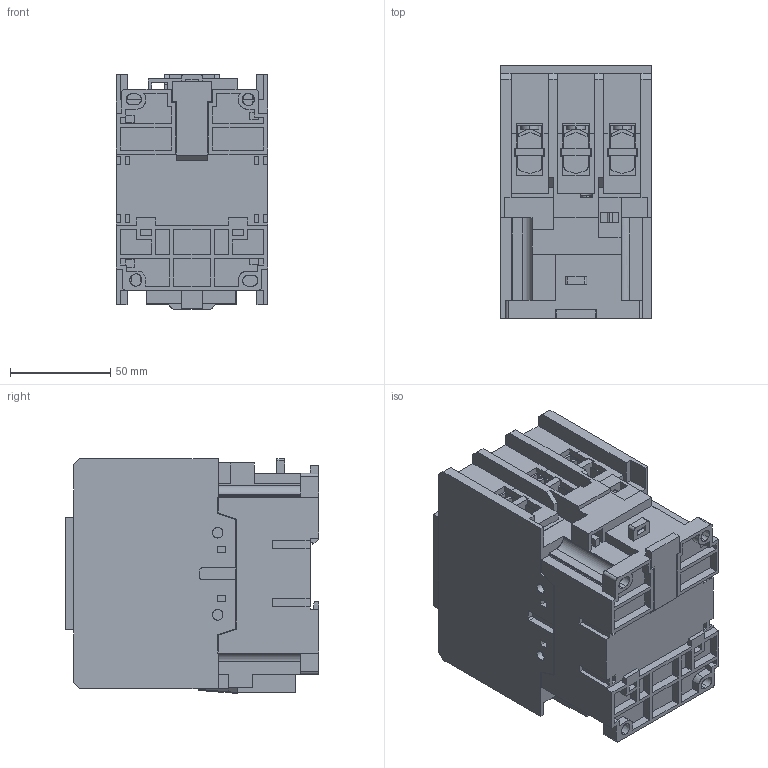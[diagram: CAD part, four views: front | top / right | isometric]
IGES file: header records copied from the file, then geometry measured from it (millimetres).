
Start section: SolidWorks IGES file using analytic representation for surfaces
Global section: file name: \\Brjgs100\dfsweg\GROUPS\BR_SC_JGS_WA_TECNICO\ENG\Usuarios\Rodrigob\conversão\contatores\Produto\CWL110\CWL110.IGS; native system: SolidWorks 2018; preprocessor: SolidWorks 2018; author: rodrigob; date: 190625.081306; units: millimetre
Bounding box: 75.35 x 126 x 117 mm (x, y, z)
Surface area: 100861.2 mm2 (no closed solid volume)
Topology: 0 solids, 0 shells, 1109 faces, 8232 edges, 8232 vertices
Faces by surface type: bspline 991, revolution 118
